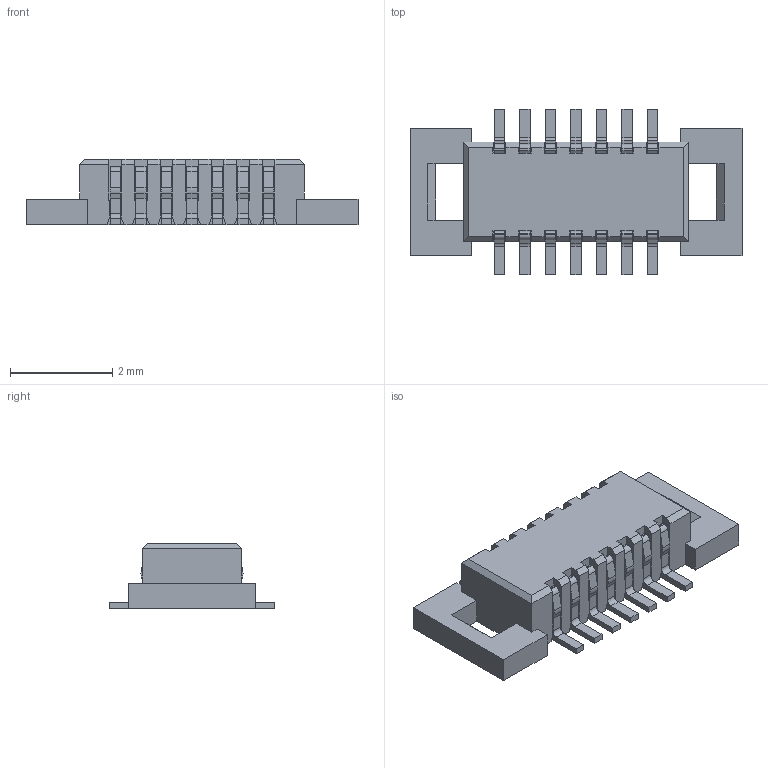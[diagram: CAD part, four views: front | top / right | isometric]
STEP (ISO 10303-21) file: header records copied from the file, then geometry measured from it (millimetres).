
FILE_DESCRIPTION(('CATIA V5 STEP Exchange'),'2;1');
FILE_NAME('F:\黄富鸿\板对板\0.5 单槽\无柱\公座\H1.28\HC-PBB05-1-14-M-H1.28-G1-R-06 (BTB0.5 单槽 公座 立贴 编带)-HCTL.stp','2026-01-20T09:14:12+00:00',('none'),('none'),'CATIA Version 5 Release 20 GA (IN-10)','CATIA V5 STEP AP203','none');
FILE_SCHEMA(('CONFIG_CONTROL_DESIGN'));
Length unit declared in the file: millimetre
Products named in the file (1): Part1
Bounding box: 6.5 x 3.24 x 1.28 mm (x, y, z)
Volume: 12.6 mm3; surface area: 108.2 mm2
Topology: 15 solids, 15 shells, 744 faces, 2144 edges, 1428 vertices
Faces by surface type: plane 604, cylinder 140
Entity records: 22404 total; most frequent: ORIENTED_EDGE 4288, CARTESIAN_POINT 4023, DIRECTION 3032, EDGE_CURVE 2144, VECTOR 1860, LINE 1860, VERTEX_POINT 1428, EDGE_LOOP 746
